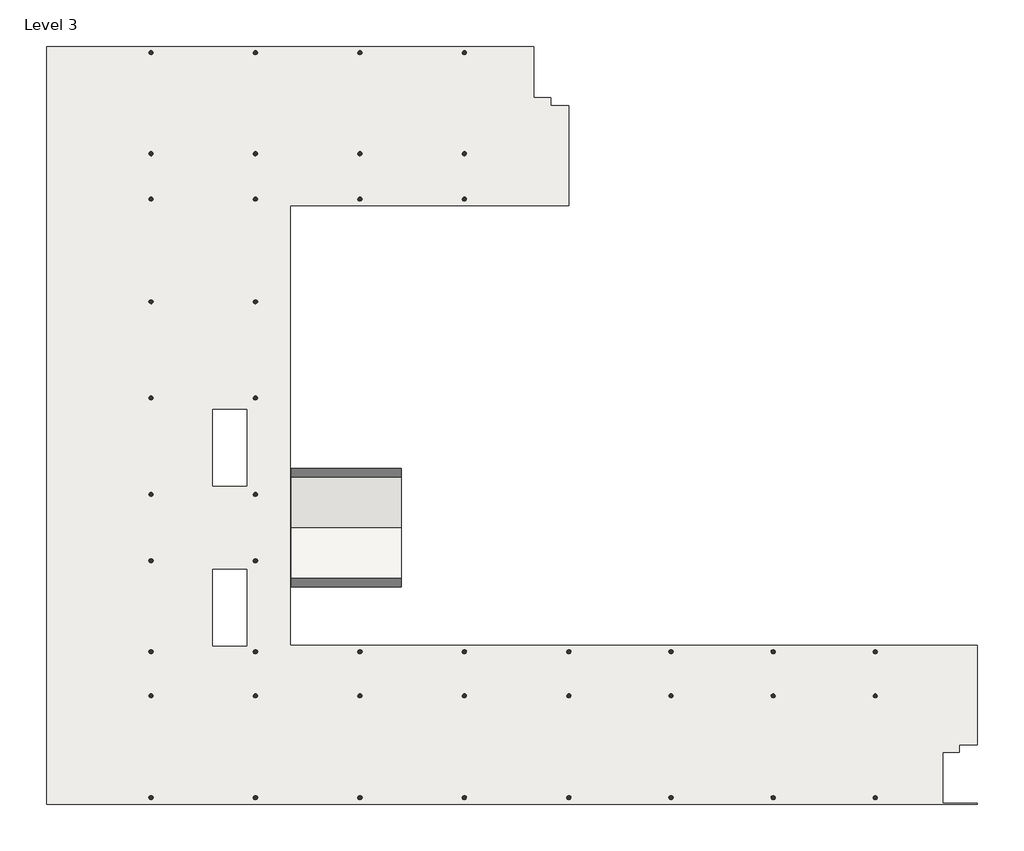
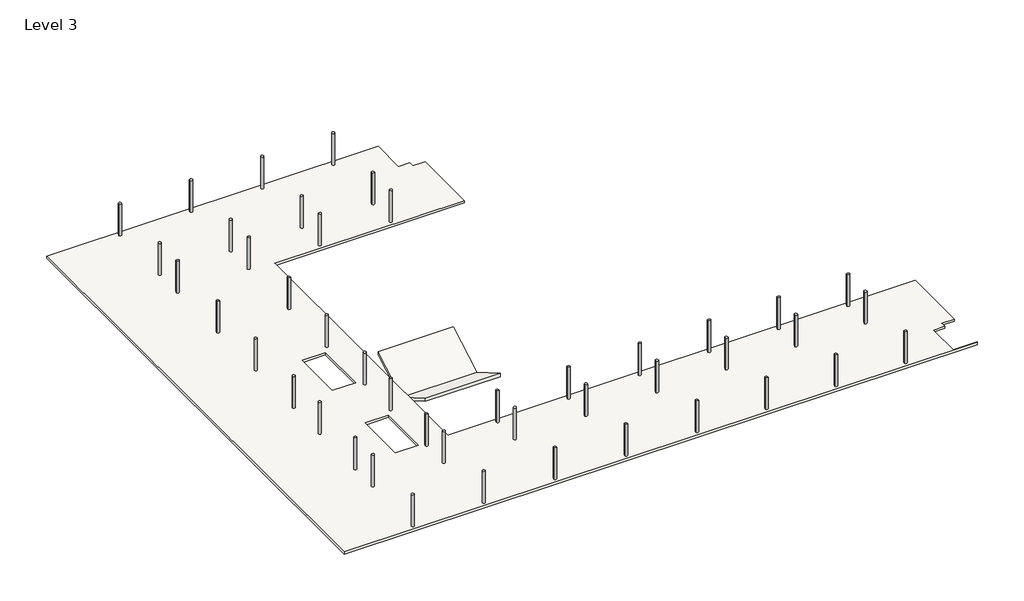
# One storey: 44 columns, 1 roof, 1 slab.
"""IFC4 building model written with IfcOpenShell, lengths in millimetres."""

import ifcopenshell
import ifcopenshell.guid

model = None  # the IFC model being written
_history = None  # IfcOwnerHistory: only IFC2X3 demands one
_inside = {}  # id of a spatial element -> (the spatial element, [elements in it])
_under = {}  # id of a project, library or spatial element -> (it, [spatial elements below it])
_declared = {}  # id of a project -> (the project, [libraries it declares])
_typed = {}  # id of a type object -> (the type object, [elements of that type])
_made_of = {}  # id of a material, layer set ... -> (it, [elements and type objects made of it])


def new_model(schema):
    """Start an empty IFC model of exactly this schema.

    Asked for "IFC4X3", IfcOpenShell would pick the latest addendum, in which some entities
    have other attributes; the version numbers below select the first issue.
    IFC2X3 requires an IfcOwnerHistory on every rooted entity: one is made here for all.
    """
    global model, _history
    if schema == "IFC4X3":
        model = ifcopenshell.file(schema_version=(4, 3, 0, 0))
    else:
        model = ifcopenshell.file(schema=schema)
    _inside.clear()
    _under.clear()
    _declared.clear()
    _typed.clear()
    _made_of.clear()
    _history = None
    if model.schema == "IFC2X3":
        org = make("IfcOrganization", Name="unknown")
        user = make(
            "IfcPersonAndOrganization",
            ThePerson=make("IfcPerson", FamilyName="unknown"),
            TheOrganization=org,
        )
        app = make(
            "IfcApplication",
            ApplicationDeveloper=org,
            Version="unknown",
            ApplicationFullName="unknown",
            ApplicationIdentifier="unknown",
        )
        _history = make(
            "IfcOwnerHistory",
            OwningUser=user,
            OwningApplication=app,
            ChangeAction="ADDED",
            CreationDate=0,
        )
    return model


def make(cls, **values):
    """One entity of the class cls with the attributes given. An attribute that is None is left unset."""
    return model.create_entity(
        cls, **{name: value for name, value in values.items() if value is not None}
    )


def rooted(cls, **values):
    """An entity with a GlobalId (a new one), such as an element, a storey or a relation."""
    return make(cls, GlobalId=ifcopenshell.guid.new(), OwnerHistory=_history, **values)


def si_unit(unit_type, name, prefix=None):
    """IfcSIUnit, for example si_unit("LENGTHUNIT", "METRE", prefix="MILLI")."""
    return make("IfcSIUnit", UnitType=unit_type, Prefix=prefix, Name=name)


def assignment(units):
    """IfcUnitAssignment: the units of a project."""
    return None if units is None else make("IfcUnitAssignment", Units=units)


def point(xyz):
    """IfcCartesianPoint."""
    return None if xyz is None else make("IfcCartesianPoint", Coordinates=xyz)


def direction(xyz):
    """IfcDirection."""
    return None if xyz is None else make("IfcDirection", DirectionRatios=xyz)


def frame(location, z_axis=None, x_axis=None):
    """IfcAxis2Placement3D, a coordinate frame: its origin and axes. An axis left out is left unset."""
    return make(
        "IfcAxis2Placement3D",
        Location=point(location),
        Axis=direction(z_axis),
        RefDirection=direction(x_axis),
    )


def frame_2d(location, x_axis=None):
    """IfcAxis2Placement2D, a coordinate frame in the plane: its origin and x axis."""
    return make(
        "IfcAxis2Placement2D", Location=point(location), RefDirection=direction(x_axis)
    )


def origin():
    """The frame at (0, 0, 0) with its axes left unset."""
    return frame((0.0, 0.0, 0.0))


def origin_2d():
    """The frame at (0, 0) in the plane with its x axis left unset."""
    return frame_2d((0.0, 0.0))


def place(relative_to, where):
    """IfcLocalPlacement: puts the frame where relative to a parent placement (None: the world)."""
    return make(
        "IfcLocalPlacement", PlacementRelTo=relative_to, RelativePlacement=where
    )


def context(
    kind, dimensions, precision=None, world=None, true_north=None, identifier=None
):
    """IfcGeometricRepresentationContext, for example the 3D "Model" context."""
    return make(
        "IfcGeometricRepresentationContext",
        ContextIdentifier=identifier,
        ContextType=kind,
        CoordinateSpaceDimension=dimensions,
        Precision=precision,
        WorldCoordinateSystem=world,
        TrueNorth=true_north,
    )


def project(units=None, contexts=None):
    """IfcProject with its units and contexts."""
    return rooted(
        "IfcProject",
        Name="project",
        RepresentationContexts=contexts,
        UnitsInContext=assignment(units),
    )


def spatial(cls, under=None, at=None, **own):
    """A site, building, storey or space (cls), placed at a placement, below another one or the project."""
    s = rooted(cls, ObjectPlacement=at, **own)
    if under is not None:
        _under.setdefault(under.id(), (under, []))[1].append(s)
    return s


def polyline(points):
    """IfcPolyline through the points."""
    return make("IfcPolyline", Points=[point(p) for p in points])


def circle_curve(where, radius):
    """IfcCircle in the frame where."""
    return make("IfcCircle", Position=where, Radius=radius)


def trimmed(basis, trim1, trim2, sense, master):
    """IfcTrimmedCurve: the piece of a basis curve between two trims."""
    return make(
        "IfcTrimmedCurve",
        BasisCurve=basis,
        Trim1=trim1,
        Trim2=trim2,
        SenseAgreement=sense,
        MasterRepresentation=master,
    )


def segment(curve, same_sense, transition):
    """IfcCompositeCurveSegment."""
    return make(
        "IfcCompositeCurveSegment",
        Transition=transition,
        SameSense=same_sense,
        ParentCurve=curve,
    )


def composite_curve(segments, self_intersect=None):
    """IfcCompositeCurve: segments joined end to end."""
    return make("IfcCompositeCurve", Segments=segments, SelfIntersect=self_intersect)


def outline(outer, holes=None, kind="AREA"):
    """IfcArbitraryClosedProfileDef: a profile drawn as a closed curve; with holes, ...WithVoids."""
    if holes is None:
        return make("IfcArbitraryClosedProfileDef", ProfileType=kind, OuterCurve=outer)
    return make(
        "IfcArbitraryProfileDefWithVoids",
        ProfileType=kind,
        OuterCurve=outer,
        InnerCurves=holes,
    )


def extrude(swept, where, along, depth):
    """IfcExtrudedAreaSolid: the profile swept, set in the frame where, extruded along a direction by depth."""
    return make(
        "IfcExtrudedAreaSolid",
        SweptArea=swept,
        Position=where,
        ExtrudedDirection=direction(along),
        Depth=depth,
    )


def shape(context_of_items, identifier, shape_type, items):
    """IfcShapeRepresentation: the items that make up one representation, for example the "Body"."""
    return make(
        "IfcShapeRepresentation",
        ContextOfItems=context_of_items,
        RepresentationIdentifier=identifier,
        RepresentationType=shape_type,
        Items=items,
    )


def source(mapping_origin, context_of_items, identifier, shape_type, items):
    """IfcRepresentationMap: a shape defined once, which mapped items show again and again."""
    return make(
        "IfcRepresentationMap",
        MappingOrigin=mapping_origin,
        MappedRepresentation=shape(context_of_items, identifier, shape_type, items),
    )


def transform(
    local_origin,
    x_axis=None,
    y_axis=None,
    z_axis=None,
    scale=None,
    scale2=None,
    scale3=None,
    uniform=True,
):
    """IfcCartesianTransformationOperator3D, or its non-uniform kind. x_axis, y_axis, z_axis: its Axis1, 2, 3."""
    if uniform:
        return make(
            "IfcCartesianTransformationOperator3D",
            Axis1=direction(x_axis),
            Axis2=direction(y_axis),
            LocalOrigin=point(local_origin),
            Scale=scale,
            Axis3=direction(z_axis),
        )
    return make(
        "IfcCartesianTransformationOperator3DnonUniform",
        Axis1=direction(x_axis),
        Axis2=direction(y_axis),
        LocalOrigin=point(local_origin),
        Scale=scale,
        Axis3=direction(z_axis),
        Scale2=scale2,
        Scale3=scale3,
    )


def mapped(mapping_source, mapping_target):
    """IfcMappedItem: shows the shape of a source again, moved by a transform."""
    return make(
        "IfcMappedItem", MappingSource=mapping_source, MappingTarget=mapping_target
    )


def made_of(thing, what):
    """Note that an element or type object is made of a material, layer set ...; save() writes the relation."""
    if what is not None:
        _made_of.setdefault(what.id(), (what, []))[1].append(thing)
    return thing


def element(
    cls,
    number,
    at=None,
    inside=None,
    cuts=None,
    type_object=None,
    material=None,
    context=None,
    identifier="Body",
    shape_type=None,
    held_by="IfcProductDefinitionShape",
    body=None,
    shapes=None,
    **own,
):
    """One element of the class cls, such as IfcWall. Its Tag is "e" and its number.

    at: its placement. inside: the storey or other place that contains it. cuts: it is an
    opening in that element (IfcRelVoidsElement). A single representation is given by context,
    identifier, shape_type and body (its items); several are given by shapes. held_by: the class
    of the entity that holds the representations. save() writes the other relations.
    """
    e = rooted(cls, Tag="e%d" % number, ObjectPlacement=at, **own)
    if body is not None:
        shapes = [shape(context, identifier, shape_type, body)]
    if shapes is not None:
        e.Representation = make(held_by, Representations=shapes)
    if inside is not None:
        _inside.setdefault(inside.id(), (inside, []))[1].append(e)
    if cuts is not None:
        rooted(
            "IfcRelVoidsElement", RelatingBuildingElement=cuts, RelatedOpeningElement=e
        )
    if type_object is not None:
        _typed.setdefault(type_object.id(), (type_object, []))[1].append(e)
    return made_of(e, material)


def aggregate(whole, parts):
    """IfcRelAggregates: a whole, such as a stair, and the parts it consists of."""
    return rooted("IfcRelAggregates", RelatingObject=whole, RelatedObjects=parts)


def save(model, path):
    """Write the relations noted so far, then the file.

    IfcRelAggregates (storeys below a building ...), IfcRelContainedInSpatialStructure (elements
    in a storey), IfcRelDefinesByType, IfcRelAssociatesMaterial and IfcRelDeclares: one each for
    every whole, place, type object, material and project.
    """
    for whole, parts in _under.values():
        aggregate(whole, parts)
    for where, things in _inside.values():
        rooted(
            "IfcRelContainedInSpatialStructure",
            RelatedElements=things,
            RelatingStructure=where,
        )
    for kind, things in _typed.values():
        rooted("IfcRelDefinesByType", RelatedObjects=things, RelatingType=kind)
    for what, things in _made_of.values():
        rooted("IfcRelAssociatesMaterial", RelatedObjects=things, RelatingMaterial=what)
    for by, libraries in _declared.values():
        rooted("IfcRelDeclares", RelatingContext=by, RelatedDefinitions=libraries)
    model.write(path)


def m_concrete_round_column_300mm_040c63dc(model_context):
    return source(origin(), model_context, "Body", "SweptSolid", [
        extrude(outline(composite_curve([segment(trimmed(circle_curve(origin_2d(), 150.0), [point((-150.0, 0.0))], [point((150.0, 0.0))], False, "CARTESIAN"), True, "CONTINUOUS"), segment(trimmed(circle_curve(origin_2d(), 150.0), [point((150.0, 0.0))], [point((-150.0, 0.0))], False, "CARTESIAN"), True, "CONTINUOUS")], self_intersect=False)), frame((0.0, 0.0, 7600.0), z_axis=(0.0, 0.0, 1.0), x_axis=(1.0, 0.0, 0.0)), (0.0, 0.0, 1.0), 3550.0),
    ])


model = new_model("IFC4")

# Units and contexts
model_context = context("Model", 3, world=origin())
ifc_project = project(units=[si_unit("LENGTHUNIT", "METRE", prefix="MILLI")], contexts=[model_context])

# Site, building, storey
site = spatial("IfcSite", under=ifc_project)
building = spatial("IfcBuilding", under=site)
storey = spatial("IfcBuildingStorey", under=building, Name="Level 3", Elevation=7600.0)

# Columns
placement = place(None, origin())
m_concrete_round_column_300mm_shape = m_concrete_round_column_300mm_040c63dc(model_context)
element("IfcColumn", 1, ObjectType="M_Concrete-Round-Column : 300mm", at=placement, inside=storey, context=model_context, shape_type="MappedRepresentation", body=[
    mapped(m_concrete_round_column_300mm_shape, transform((-2539.0909489, 23121.5799804, 0.0), x_axis=(-1.0, 0.0, 0.0), y_axis=(0.0, -1.0, 0.0), z_axis=(0.0, 0.0, 1.0))),
])
element("IfcColumn", 2, ObjectType="M_Concrete-Round-Column : 300mm", at=placement, inside=storey, context=model_context, shape_type="MappedRepresentation", body=[
    mapped(m_concrete_round_column_300mm_shape, transform((-2539.0909489, 12506.7392059, 0.0), x_axis=(-1.0, 0.0, 0.0), y_axis=(0.0, -1.0, 0.0), z_axis=(0.0, 0.0, 1.0))),
])
element("IfcColumn", 3, ObjectType="M_Concrete-Round-Column : 300mm", at=placement, inside=storey, context=model_context, shape_type="MappedRepresentation", body=[
    mapped(m_concrete_round_column_300mm_shape, transform((-2539.0909489, 5598.6392059, 0.0), x_axis=(-1.0, 0.0, 0.0), y_axis=(0.0, -1.0, 0.0), z_axis=(0.0, 0.0, 1.0))),
])
element("IfcColumn", 4, ObjectType="M_Concrete-Round-Column : 300mm", at=placement, inside=storey, context=model_context, shape_type="MappedRepresentation", body=[
    mapped(m_concrete_round_column_300mm_shape, transform((-2539.0909489, -1309.4607941, 0.0), x_axis=(-1.0, 0.0, 0.0), y_axis=(0.0, -1.0, 0.0), z_axis=(0.0, 0.0, 1.0))),
])
element("IfcColumn", 5, ObjectType="M_Concrete-Round-Column : 300mm", at=placement, inside=storey, context=model_context, shape_type="MappedRepresentation", body=[
    mapped(m_concrete_round_column_300mm_shape, transform((-2539.0909489, -6063.8611817, 0.0), x_axis=(-1.0, 0.0, 0.0), y_axis=(0.0, -1.0, 0.0), z_axis=(0.0, 0.0, 1.0))),
])
element("IfcColumn", 6, ObjectType="M_Concrete-Round-Column : 300mm", at=placement, inside=storey, context=model_context, shape_type="MappedRepresentation", body=[
    mapped(m_concrete_round_column_300mm_shape, transform((-2539.0909489, -15754.7006057, 0.0), x_axis=(-1.0, 0.0, 0.0), y_axis=(0.0, -1.0, 0.0), z_axis=(0.0, 0.0, 1.0))),
])
element("IfcColumn", 7, ObjectType="M_Concrete-Round-Column : 300mm", at=placement, inside=storey, context=model_context, shape_type="MappedRepresentation", body=[
    mapped(m_concrete_round_column_300mm_shape, transform((-2539.0909489, 30368.5799804, 0.0), x_axis=(-1.0, 0.0, 0.0), y_axis=(0.0, -1.0, 0.0), z_axis=(0.0, 0.0, 1.0))),
])
element("IfcColumn", 8, ObjectType="M_Concrete-Round-Column : 300mm", at=placement, inside=storey, context=model_context, shape_type="MappedRepresentation", body=[
    mapped(m_concrete_round_column_300mm_shape, transform((-2539.0909489, 19864.8392059, 0.0), x_axis=(-1.0, 0.0, 0.0), y_axis=(0.0, -1.0, 0.0), z_axis=(0.0, 0.0, 1.0))),
])
element("IfcColumn", 9, ObjectType="M_Concrete-Round-Column : 300mm", at=placement, inside=storey, context=model_context, shape_type="MappedRepresentation", body=[
    mapped(m_concrete_round_column_300mm_shape, transform((-2539.0909489, -12582.3615692, 0.0), x_axis=(-1.0, 0.0, 0.0), y_axis=(0.0, -1.0, 0.0), z_axis=(0.0, 0.0, 1.0))),
])
element("IfcColumn", 10, ObjectType="M_Concrete-Round-Column : 300mm", at=placement, inside=storey, context=model_context, shape_type="MappedRepresentation", body=[
    mapped(m_concrete_round_column_300mm_shape, transform((-2539.0909489, -23060.7006057, 0.0), x_axis=(-1.0, 0.0, 0.0), y_axis=(0.0, -1.0, 0.0), z_axis=(0.0, 0.0, 1.0))),
])
element("IfcColumn", 11, ObjectType="M_Concrete-Round-Column : 300mm", at=placement, inside=storey, context=model_context, shape_type="MappedRepresentation", body=[
    mapped(m_concrete_round_column_300mm_shape, transform((4948.6567657, 23121.5799804, 0.0), x_axis=(-1.0, 0.0, 0.0), y_axis=(0.0, -1.0, 0.0), z_axis=(0.0, 0.0, 1.0))),
])
element("IfcColumn", 12, ObjectType="M_Concrete-Round-Column : 300mm", at=placement, inside=storey, context=model_context, shape_type="MappedRepresentation", body=[
    mapped(m_concrete_round_column_300mm_shape, transform((4948.6567657, 12506.7392059, 0.0), x_axis=(-1.0, 0.0, 0.0), y_axis=(0.0, -1.0, 0.0), z_axis=(0.0, 0.0, 1.0))),
])
element("IfcColumn", 13, ObjectType="M_Concrete-Round-Column : 300mm", at=placement, inside=storey, context=model_context, shape_type="MappedRepresentation", body=[
    mapped(m_concrete_round_column_300mm_shape, transform((4948.6567657, 5598.6392059, 0.0), x_axis=(-1.0, 0.0, 0.0), y_axis=(0.0, -1.0, 0.0), z_axis=(0.0, 0.0, 1.0))),
])
element("IfcColumn", 14, ObjectType="M_Concrete-Round-Column : 300mm", at=placement, inside=storey, context=model_context, shape_type="MappedRepresentation", body=[
    mapped(m_concrete_round_column_300mm_shape, transform((4948.6567657, -1309.4607941, 0.0), x_axis=(-1.0, 0.0, 0.0), y_axis=(0.0, -1.0, 0.0), z_axis=(0.0, 0.0, 1.0))),
])
element("IfcColumn", 15, ObjectType="M_Concrete-Round-Column : 300mm", at=placement, inside=storey, context=model_context, shape_type="MappedRepresentation", body=[
    mapped(m_concrete_round_column_300mm_shape, transform((4948.6567657, -6063.8611817, 0.0), x_axis=(-1.0, 0.0, 0.0), y_axis=(0.0, -1.0, 0.0), z_axis=(0.0, 0.0, 1.0))),
])
element("IfcColumn", 16, ObjectType="M_Concrete-Round-Column : 300mm", at=placement, inside=storey, context=model_context, shape_type="MappedRepresentation", body=[
    mapped(m_concrete_round_column_300mm_shape, transform((4948.6567657, -15754.7006057, 0.0), x_axis=(-1.0, 0.0, 0.0), y_axis=(0.0, -1.0, 0.0), z_axis=(0.0, 0.0, 1.0))),
])
element("IfcColumn", 17, ObjectType="M_Concrete-Round-Column : 300mm", at=placement, inside=storey, context=model_context, shape_type="MappedRepresentation", body=[
    mapped(m_concrete_round_column_300mm_shape, transform((4948.6567657, 30368.5799804, 0.0), x_axis=(-1.0, 0.0, 0.0), y_axis=(0.0, -1.0, 0.0), z_axis=(0.0, 0.0, 1.0))),
])
element("IfcColumn", 18, ObjectType="M_Concrete-Round-Column : 300mm", at=placement, inside=storey, context=model_context, shape_type="MappedRepresentation", body=[
    mapped(m_concrete_round_column_300mm_shape, transform((4948.6567657, 19864.8392059, 0.0), x_axis=(-1.0, 0.0, 0.0), y_axis=(0.0, -1.0, 0.0), z_axis=(0.0, 0.0, 1.0))),
])
element("IfcColumn", 19, ObjectType="M_Concrete-Round-Column : 300mm", at=placement, inside=storey, context=model_context, shape_type="MappedRepresentation", body=[
    mapped(m_concrete_round_column_300mm_shape, transform((4948.6567657, -12582.3615692, 0.0), x_axis=(-1.0, 0.0, 0.0), y_axis=(0.0, -1.0, 0.0), z_axis=(0.0, 0.0, 1.0))),
])
element("IfcColumn", 20, ObjectType="M_Concrete-Round-Column : 300mm", at=placement, inside=storey, context=model_context, shape_type="MappedRepresentation", body=[
    mapped(m_concrete_round_column_300mm_shape, transform((4948.6567657, -23060.7006057, 0.0), x_axis=(-1.0, 0.0, 0.0), y_axis=(0.0, -1.0, 0.0), z_axis=(0.0, 0.0, 1.0))),
])
element("IfcColumn", 21, ObjectType="M_Concrete-Round-Column : 300mm", at=placement, inside=storey, context=model_context, shape_type="MappedRepresentation", body=[
    mapped(m_concrete_round_column_300mm_shape, transform((12436.4044804, 23121.5799804, 0.0), x_axis=(-1.0, 0.0, 0.0), y_axis=(0.0, -1.0, 0.0), z_axis=(0.0, 0.0, 1.0))),
])
element("IfcColumn", 22, ObjectType="M_Concrete-Round-Column : 300mm", at=placement, inside=storey, context=model_context, shape_type="MappedRepresentation", body=[
    mapped(m_concrete_round_column_300mm_shape, transform((12436.4044804, -15754.7006057, 0.0), x_axis=(-1.0, 0.0, 0.0), y_axis=(0.0, -1.0, 0.0), z_axis=(0.0, 0.0, 1.0))),
])
element("IfcColumn", 23, ObjectType="M_Concrete-Round-Column : 300mm", at=placement, inside=storey, context=model_context, shape_type="MappedRepresentation", body=[
    mapped(m_concrete_round_column_300mm_shape, transform((12436.4044804, 30368.5799804, 0.0), x_axis=(-1.0, 0.0, 0.0), y_axis=(0.0, -1.0, 0.0), z_axis=(0.0, 0.0, 1.0))),
])
element("IfcColumn", 24, ObjectType="M_Concrete-Round-Column : 300mm", at=placement, inside=storey, context=model_context, shape_type="MappedRepresentation", body=[
    mapped(m_concrete_round_column_300mm_shape, transform((12436.4044804, 19864.8392059, 0.0), x_axis=(-1.0, 0.0, 0.0), y_axis=(0.0, -1.0, 0.0), z_axis=(0.0, 0.0, 1.0))),
])
element("IfcColumn", 25, ObjectType="M_Concrete-Round-Column : 300mm", at=placement, inside=storey, context=model_context, shape_type="MappedRepresentation", body=[
    mapped(m_concrete_round_column_300mm_shape, transform((12436.4044804, -12582.3615692, 0.0), x_axis=(-1.0, 0.0, 0.0), y_axis=(0.0, -1.0, 0.0), z_axis=(0.0, 0.0, 1.0))),
])
element("IfcColumn", 26, ObjectType="M_Concrete-Round-Column : 300mm", at=placement, inside=storey, context=model_context, shape_type="MappedRepresentation", body=[
    mapped(m_concrete_round_column_300mm_shape, transform((12436.4044804, -23060.7006057, 0.0), x_axis=(-1.0, 0.0, 0.0), y_axis=(0.0, -1.0, 0.0), z_axis=(0.0, 0.0, 1.0))),
])
element("IfcColumn", 27, ObjectType="M_Concrete-Round-Column : 300mm", at=placement, inside=storey, context=model_context, shape_type="MappedRepresentation", body=[
    mapped(m_concrete_round_column_300mm_shape, transform((19924.152195, 23121.5799804, 0.0), x_axis=(-1.0, 0.0, 0.0), y_axis=(0.0, -1.0, 0.0), z_axis=(0.0, 0.0, 1.0))),
])
element("IfcColumn", 28, ObjectType="M_Concrete-Round-Column : 300mm", at=placement, inside=storey, context=model_context, shape_type="MappedRepresentation", body=[
    mapped(m_concrete_round_column_300mm_shape, transform((19924.152195, -15754.7006057, 0.0), x_axis=(-1.0, 0.0, 0.0), y_axis=(0.0, -1.0, 0.0), z_axis=(0.0, 0.0, 1.0))),
])
element("IfcColumn", 29, ObjectType="M_Concrete-Round-Column : 300mm", at=placement, inside=storey, context=model_context, shape_type="MappedRepresentation", body=[
    mapped(m_concrete_round_column_300mm_shape, transform((19924.152195, 30368.5799804, 0.0), x_axis=(-1.0, 0.0, 0.0), y_axis=(0.0, -1.0, 0.0), z_axis=(0.0, 0.0, 1.0))),
])
element("IfcColumn", 30, ObjectType="M_Concrete-Round-Column : 300mm", at=placement, inside=storey, context=model_context, shape_type="MappedRepresentation", body=[
    mapped(m_concrete_round_column_300mm_shape, transform((19924.152195, 19864.8392059, 0.0), x_axis=(-1.0, 0.0, 0.0), y_axis=(0.0, -1.0, 0.0), z_axis=(0.0, 0.0, 1.0))),
])
element("IfcColumn", 31, ObjectType="M_Concrete-Round-Column : 300mm", at=placement, inside=storey, context=model_context, shape_type="MappedRepresentation", body=[
    mapped(m_concrete_round_column_300mm_shape, transform((19924.152195, -12582.3615692, 0.0), x_axis=(-1.0, 0.0, 0.0), y_axis=(0.0, -1.0, 0.0), z_axis=(0.0, 0.0, 1.0))),
])
element("IfcColumn", 32, ObjectType="M_Concrete-Round-Column : 300mm", at=placement, inside=storey, context=model_context, shape_type="MappedRepresentation", body=[
    mapped(m_concrete_round_column_300mm_shape, transform((19924.152195, -23060.7006057, 0.0), x_axis=(-1.0, 0.0, 0.0), y_axis=(0.0, -1.0, 0.0), z_axis=(0.0, 0.0, 1.0))),
])
element("IfcColumn", 33, ObjectType="M_Concrete-Round-Column : 300mm", at=placement, inside=storey, context=model_context, shape_type="MappedRepresentation", body=[
    mapped(m_concrete_round_column_300mm_shape, transform((27411.8999097, -15754.7006057, 0.0), x_axis=(-1.0, 0.0, 0.0), y_axis=(0.0, -1.0, 0.0), z_axis=(0.0, 0.0, 1.0))),
])
element("IfcColumn", 34, ObjectType="M_Concrete-Round-Column : 300mm", at=placement, inside=storey, context=model_context, shape_type="MappedRepresentation", body=[
    mapped(m_concrete_round_column_300mm_shape, transform((27411.8999097, -12582.3615692, 0.0), x_axis=(-1.0, 0.0, 0.0), y_axis=(0.0, -1.0, 0.0), z_axis=(0.0, 0.0, 1.0))),
])
element("IfcColumn", 35, ObjectType="M_Concrete-Round-Column : 300mm", at=placement, inside=storey, context=model_context, shape_type="MappedRepresentation", body=[
    mapped(m_concrete_round_column_300mm_shape, transform((27411.8999097, -23060.7006057, 0.0), x_axis=(-1.0, 0.0, 0.0), y_axis=(0.0, -1.0, 0.0), z_axis=(0.0, 0.0, 1.0))),
])
element("IfcColumn", 36, ObjectType="M_Concrete-Round-Column : 300mm", at=placement, inside=storey, context=model_context, shape_type="MappedRepresentation", body=[
    mapped(m_concrete_round_column_300mm_shape, transform((34733.7042668, -15754.7006057, 0.0), x_axis=(-1.0, 0.0, 0.0), y_axis=(0.0, -1.0, 0.0), z_axis=(0.0, 0.0, 1.0))),
])
element("IfcColumn", 37, ObjectType="M_Concrete-Round-Column : 300mm", at=placement, inside=storey, context=model_context, shape_type="MappedRepresentation", body=[
    mapped(m_concrete_round_column_300mm_shape, transform((34733.7042668, -12582.3615692, 0.0), x_axis=(-1.0, 0.0, 0.0), y_axis=(0.0, -1.0, 0.0), z_axis=(0.0, 0.0, 1.0))),
])
element("IfcColumn", 38, ObjectType="M_Concrete-Round-Column : 300mm", at=placement, inside=storey, context=model_context, shape_type="MappedRepresentation", body=[
    mapped(m_concrete_round_column_300mm_shape, transform((34733.7042668, -23060.7006057, 0.0), x_axis=(-1.0, 0.0, 0.0), y_axis=(0.0, -1.0, 0.0), z_axis=(0.0, 0.0, 1.0))),
])
element("IfcColumn", 39, ObjectType="M_Concrete-Round-Column : 300mm", at=placement, inside=storey, context=model_context, shape_type="MappedRepresentation", body=[
    mapped(m_concrete_round_column_300mm_shape, transform((42055.5086239, -15754.7006057, 0.0), x_axis=(-1.0, 0.0, 0.0), y_axis=(0.0, -1.0, 0.0), z_axis=(0.0, 0.0, 1.0))),
])
element("IfcColumn", 40, ObjectType="M_Concrete-Round-Column : 300mm", at=placement, inside=storey, context=model_context, shape_type="MappedRepresentation", body=[
    mapped(m_concrete_round_column_300mm_shape, transform((42055.5086239, -12582.3615692, 0.0), x_axis=(-1.0, 0.0, 0.0), y_axis=(0.0, -1.0, 0.0), z_axis=(0.0, 0.0, 1.0))),
])
element("IfcColumn", 41, ObjectType="M_Concrete-Round-Column : 300mm", at=placement, inside=storey, context=model_context, shape_type="MappedRepresentation", body=[
    mapped(m_concrete_round_column_300mm_shape, transform((42055.5086239, -23060.7006057, 0.0), x_axis=(-1.0, 0.0, 0.0), y_axis=(0.0, -1.0, 0.0), z_axis=(0.0, 0.0, 1.0))),
])
element("IfcColumn", 42, ObjectType="M_Concrete-Round-Column : 300mm", at=placement, inside=storey, context=model_context, shape_type="MappedRepresentation", body=[
    mapped(m_concrete_round_column_300mm_shape, transform((49377.3129811, -15754.7006057, 0.0), x_axis=(-1.0, 0.0, 0.0), y_axis=(0.0, -1.0, 0.0), z_axis=(0.0, 0.0, 1.0))),
])
element("IfcColumn", 43, ObjectType="M_Concrete-Round-Column : 300mm", at=placement, inside=storey, context=model_context, shape_type="MappedRepresentation", body=[
    mapped(m_concrete_round_column_300mm_shape, transform((49377.3129811, -12582.3615692, 0.0), x_axis=(-1.0, 0.0, 0.0), y_axis=(0.0, -1.0, 0.0), z_axis=(0.0, 0.0, 1.0))),
])
element("IfcColumn", 44, ObjectType="M_Concrete-Round-Column : 300mm", at=placement, inside=storey, context=model_context, shape_type="MappedRepresentation", body=[
    mapped(m_concrete_round_column_300mm_shape, transform((49377.3129811, -23060.7006057, 0.0), x_axis=(-1.0, 0.0, 0.0), y_axis=(0.0, -1.0, 0.0), z_axis=(0.0, 0.0, 1.0))),
])

# Roof
element("IfcRoof", 45, ObjectType="Generic Roof - 300mm", at=placement, inside=storey, context=model_context, shape_type="SweptSolid", body=[
    extrude(outline(polyline([(-7968.8611817, 9166.4101615), (-3686.6609879, 6694.0807269), (595.5392059, 9166.4101615), (595.5392059, 8820.0), (-3686.6609879, 6347.6705654), (-7968.8611817, 8820.0), (-7968.8611817, 9166.4101615)])), frame((7497.0010724, 0.0, 0.0), z_axis=(1.0, 0.0, 0.0), x_axis=(0.0, 1.0, 0.0)), (0.0, 0.0, 1.0), 7897.0891327),
])

# Slab
element("IfcSlab", 46, ObjectType="250mm Concrete", at=placement, inside=storey, context=model_context, shape_type="SweptSolid", body=[
    extrude(outline(polyline([(27411.8999097, 19414.8392059), (7447.5010724, 19414.8392059), (7447.5010724, -12132.3615692), (56699.1173382, -12132.3615692), (56699.1173382, -19265.7006057), (55399.1173382, -19265.7006057), (55399.1173382, -19815.7006057), (54199.1173382, -19815.7006057), (54199.1173382, -23440.7006057), (56699.1173382, -23440.7006057), (56699.1173382, -23510.7006057), (-10026.8386635, -23510.7006057), (-10026.8386635, 30818.5799804), (24911.8999097, 30818.5799804), (24911.8999097, 27133.5799804), (26111.8999097, 27133.5799804), (26111.8999097, 26573.5799804), (27411.8999097, 26573.5799804), (27411.8999097, 19414.8392059)]), holes=[polyline([(1898.6567657, -699.4607941), (4338.6567657, -699.4607941), (4338.6567657, 4800.5392059), (1898.6567657, 4800.5392059), (1898.6567657, -699.4607941)]), polyline([(1898.6567657, -6673.8611817), (1898.6567657, -12173.8611817), (4338.6567657, -12173.8611817), (4338.6567657, -6673.8611817), (1898.6567657, -6673.8611817)])]), frame((0.0, 0.0, 7350.0), z_axis=(0.0, 0.0, 1.0), x_axis=(1.0, 0.0, 0.0)), (0.0, 0.0, 1.0), 250.0),
])

save(model, "model.ifc")
